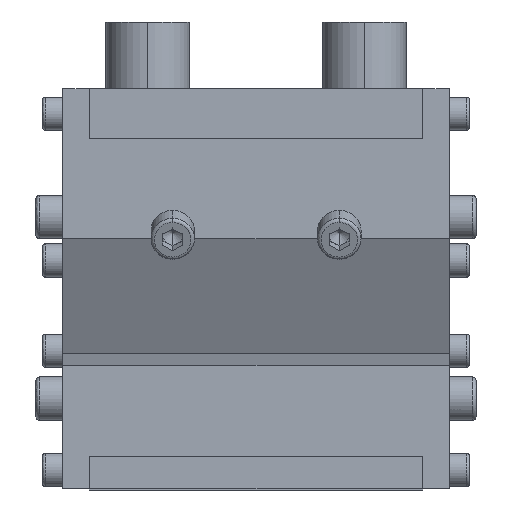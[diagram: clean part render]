
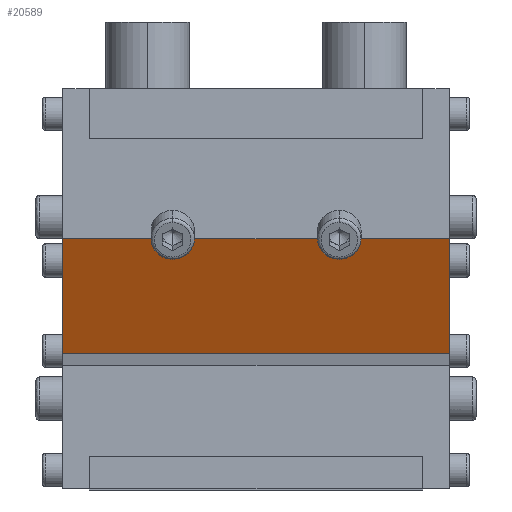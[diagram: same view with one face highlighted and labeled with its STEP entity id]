
A CAD part, left-side view. The second image highlights one B-rep face of the part: STEP entity #20589.
In plain terms, the highlighted planar face has unit normal (-0.897, 0, -0.442).
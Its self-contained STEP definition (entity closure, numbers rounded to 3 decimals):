
#297 = VERTEX_POINT ( 'NONE', #8835 ) ;
#558 = ORIENTED_EDGE ( 'NONE', *, *, #5630, .T. ) ;
#1381 = LINE ( 'NONE', #12202, #26120 ) ;
#1704 = FACE_OUTER_BOUND ( 'NONE', #9656, .T. ) ;
#5149 = CARTESIAN_POINT ( 'NONE',  ( -158., 58., -64.5 ) ) ;
#5346 = PLANE ( 'NONE',  #16468 ) ;
#5630 = EDGE_CURVE ( 'NONE', #7787, #19727, #21831, .T. ) ;
#6919 = CARTESIAN_POINT ( 'NONE',  ( -175., -58., -30.027 ) ) ;
#6962 = VECTOR ( 'NONE', #11204, 1000. ) ;
#7070 = DIRECTION ( 'NONE',  ( -0.442, 0., 0.897 ) ) ;
#7206 = CARTESIAN_POINT ( 'NONE',  ( -158., -58., -64.5 ) ) ;
#7787 = VERTEX_POINT ( 'NONE', #16102 ) ;
#8821 = VECTOR ( 'NONE', #7070, 1000. ) ;
#8835 = CARTESIAN_POINT ( 'NONE',  ( -175., 58., -30.027 ) ) ;
#9656 = EDGE_LOOP ( 'NONE', ( #558, #24394, #19379, #24683 ) ) ;
#11204 = DIRECTION ( 'NONE',  ( 0., -1., 0. ) ) ;
#12202 = CARTESIAN_POINT ( 'NONE',  ( -158., 50., -64.5 ) ) ;
#13934 = CARTESIAN_POINT ( 'NONE',  ( -158., 58., -64.5 ) ) ;
#14065 = LINE ( 'NONE', #13934, #20941 ) ;
#15132 = EDGE_CURVE ( 'NONE', #22849, #7787, #1381, .T. ) ;
#15513 = CARTESIAN_POINT ( 'NONE',  ( -158., 50., -64.5 ) ) ;
#16102 = CARTESIAN_POINT ( 'NONE',  ( -158., -58., -64.5 ) ) ;
#16468 = AXIS2_PLACEMENT_3D ( 'NONE', #15513, #17806, #17676 ) ;
#16722 = EDGE_CURVE ( 'NONE', #22849, #297, #14065, .T. ) ;
#17676 = DIRECTION ( 'NONE',  ( -0.442, 0., 0.897 ) ) ;
#17806 = DIRECTION ( 'NONE',  ( -0.897, 0., -0.442 ) ) ;
#18276 = DIRECTION ( 'NONE',  ( -0.442, 0., 0.897 ) ) ;
#19379 = ORIENTED_EDGE ( 'NONE', *, *, #16722, .F. ) ;
#19727 = VERTEX_POINT ( 'NONE', #6919 ) ;
#19730 = LINE ( 'NONE', #24070, #6962 ) ;
#20589 = ADVANCED_FACE ( 'NONE', ( #1704 ), #5346, .T. ) ;
#20941 = VECTOR ( 'NONE', #18276, 1000. ) ;
#21831 = LINE ( 'NONE', #7206, #8821 ) ;
#22849 = VERTEX_POINT ( 'NONE', #5149 ) ;
#24070 = CARTESIAN_POINT ( 'NONE',  ( -175., 50., -30.027 ) ) ;
#24394 = ORIENTED_EDGE ( 'NONE', *, *, #25853, .F. ) ;
#24683 = ORIENTED_EDGE ( 'NONE', *, *, #15132, .T. ) ;
#25853 = EDGE_CURVE ( 'NONE', #297, #19727, #19730, .T. ) ;
#26120 = VECTOR ( 'NONE', #26574, 1000. ) ;
#26574 = DIRECTION ( 'NONE',  ( 0., -1., 0. ) ) ;
